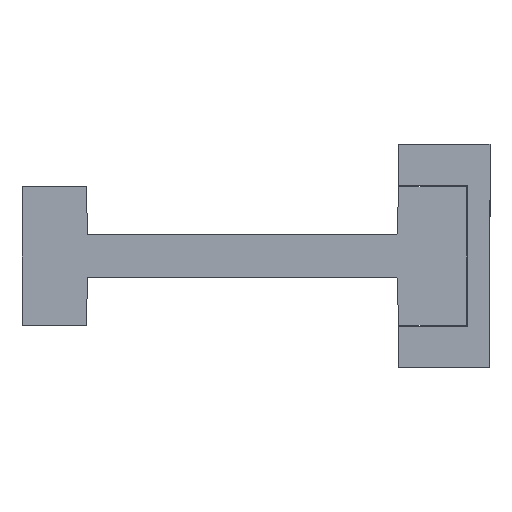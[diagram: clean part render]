
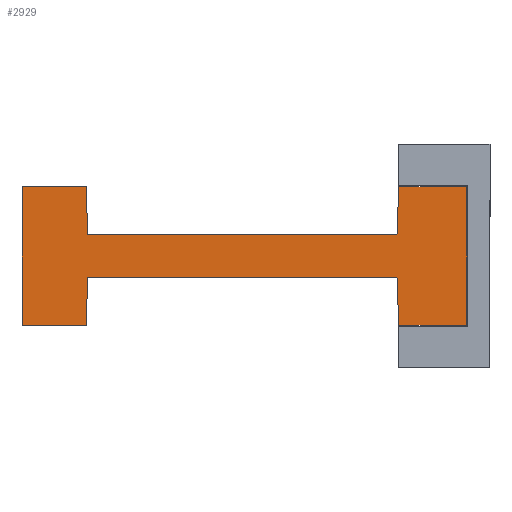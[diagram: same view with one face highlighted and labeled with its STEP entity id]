
A CAD part, left-side view. The second image highlights one B-rep face of the part: STEP entity #2929.
In plain terms, the highlighted planar face has unit normal (-1, 0, 0) as drawn and (0, 0, 1) by its records, which use the part's own axes.
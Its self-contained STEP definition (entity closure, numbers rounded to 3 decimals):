
#303 = EDGE_CURVE ( 'NONE', #3069, #3339, #3361, .T. ) ;
#332 = CARTESIAN_POINT ( 'NONE',  ( -11.85, 0., 0. ) ) ;
#364 = CARTESIAN_POINT ( 'NONE',  ( 11.85, -76., 0. ) ) ;
#415 = DIRECTION ( 'NONE',  ( 0., 1., 0. ) ) ;
#460 = VERTEX_POINT ( 'NONE', #860 ) ;
#468 = LINE ( 'NONE', #8560, #1671 ) ;
#572 = ORIENTED_EDGE ( 'NONE', *, *, #5993, .T. ) ;
#620 = VECTOR ( 'NONE', #5889, 1000. ) ;
#742 = ORIENTED_EDGE ( 'NONE', *, *, #7451, .T. ) ;
#860 = CARTESIAN_POINT ( 'NONE',  ( 3.6, -64.8, 0. ) ) ;
#875 = VECTOR ( 'NONE', #6374, 1000. ) ;
#905 = CARTESIAN_POINT ( 'NONE',  ( -11.85, 0., 0. ) ) ;
#1105 = ORIENTED_EDGE ( 'NONE', *, *, #303, .T. ) ;
#1299 = VECTOR ( 'NONE', #2694, 1000. ) ;
#1457 = CARTESIAN_POINT ( 'NONE',  ( -11.85, -11.6, 0. ) ) ;
#1490 = DIRECTION ( 'NONE',  ( -1., 0., 0. ) ) ;
#1617 = VERTEX_POINT ( 'NONE', #3717 ) ;
#1643 = EDGE_CURVE ( 'NONE', #2831, #1617, #5554, .T. ) ;
#1671 = VECTOR ( 'NONE', #5896, 1000. ) ;
#1796 = VECTOR ( 'NONE', #415, 1000. ) ;
#1833 = LINE ( 'NONE', #6557, #8056 ) ;
#1876 = DIRECTION ( 'NONE',  ( -1., 0.024, 0. ) ) ;
#1905 = CARTESIAN_POINT ( 'NONE',  ( -11.85, -65., 0. ) ) ;
#2144 = CARTESIAN_POINT ( 'NONE',  ( -11.85, -65., 0. ) ) ;
#2178 = EDGE_CURVE ( 'NONE', #3339, #2831, #5103, .T. ) ;
#2348 = DIRECTION ( 'NONE',  ( 0., 0., -1. ) ) ;
#2387 = EDGE_CURVE ( 'NONE', #4311, #3069, #4221, .T. ) ;
#2533 = VERTEX_POINT ( 'NONE', #7608 ) ;
#2694 = DIRECTION ( 'NONE',  ( 0., -1., 0. ) ) ;
#2727 = VERTEX_POINT ( 'NONE', #364 ) ;
#2831 = VERTEX_POINT ( 'NONE', #1905 ) ;
#2899 = DIRECTION ( 'NONE',  ( 1., 0., 0. ) ) ;
#2929 = ADVANCED_FACE ( 'Face1', ( #7818 ), #3585, .F. ) ;
#3019 = ORIENTED_EDGE ( 'NONE', *, *, #2387, .T. ) ;
#3069 = VERTEX_POINT ( 'NONE', #5081 ) ;
#3178 = DIRECTION ( 'NONE',  ( 0., 1., 0. ) ) ;
#3217 = CARTESIAN_POINT ( 'NONE',  ( 11.85, -65., 0. ) ) ;
#3339 = VERTEX_POINT ( 'NONE', #5133 ) ;
#3361 = LINE ( 'NONE', #4120, #1299 ) ;
#3384 = CARTESIAN_POINT ( 'NONE',  ( 11.85, -76., 0. ) ) ;
#3469 = VECTOR ( 'NONE', #7386, 1000. ) ;
#3585 = PLANE ( 'NONE',  #3765 ) ;
#3717 = CARTESIAN_POINT ( 'NONE',  ( -11.85, -76., 0. ) ) ;
#3765 = AXIS2_PLACEMENT_3D ( 'NONE', #5044, #2348, #1490 ) ;
#3896 = CARTESIAN_POINT ( 'NONE',  ( -3.6, -64.8, 0. ) ) ;
#4111 = ORIENTED_EDGE ( 'NONE', *, *, #1643, .T. ) ;
#4120 = CARTESIAN_POINT ( 'NONE',  ( -3.6, -11.9, 0. ) ) ;
#4126 = EDGE_CURVE ( 'Edge1', #2533, #4918, #468, .T. ) ;
#4221 = LINE ( 'NONE', #1457, #6430 ) ;
#4294 = LINE ( 'NONE', #3384, #7328 ) ;
#4311 = VERTEX_POINT ( 'NONE', #7424 ) ;
#4398 = ORIENTED_EDGE ( 'NONE', *, *, #5811, .T. ) ;
#4439 = ORIENTED_EDGE ( 'NONE', *, *, #8698, .T. ) ;
#4611 = EDGE_CURVE ( 'NONE', #6683, #4311, #6517, .T. ) ;
#4695 = LINE ( 'NONE', #7420, #1796 ) ;
#4918 = VERTEX_POINT ( 'NONE', #8647 ) ;
#4993 = DIRECTION ( 'NONE',  ( 0.999, -0.036, 0. ) ) ;
#5044 = CARTESIAN_POINT ( 'NONE',  ( 0., 0., 0. ) ) ;
#5081 = CARTESIAN_POINT ( 'NONE',  ( -3.6, -11.9, 0. ) ) ;
#5103 = LINE ( 'NONE', #3896, #620 ) ;
#5133 = CARTESIAN_POINT ( 'NONE',  ( -3.6, -64.8, 0. ) ) ;
#5359 = ORIENTED_EDGE ( 'NONE', *, *, #4126, .T. ) ;
#5369 = ORIENTED_EDGE ( 'NONE', *, *, #4611, .T. ) ;
#5554 = LINE ( 'NONE', #2144, #7390 ) ;
#5634 = ORIENTED_EDGE ( 'NONE', *, *, #6798, .T. ) ;
#5811 = EDGE_CURVE ( 'NONE', #1617, #2727, #4294, .T. ) ;
#5826 = DIRECTION ( 'NONE',  ( -1., 0., 0. ) ) ;
#5889 = DIRECTION ( 'NONE',  ( -1., -0.024, 0. ) ) ;
#5896 = DIRECTION ( 'NONE',  ( 0., 1., 0. ) ) ;
#5993 = EDGE_CURVE ( 'NONE', #8406, #2533, #6747, .T. ) ;
#6008 = ORIENTED_EDGE ( 'NONE', *, *, #2178, .T. ) ;
#6118 = CARTESIAN_POINT ( 'NONE',  ( 3.6, -64.8, 0. ) ) ;
#6238 = ORIENTED_EDGE ( 'NONE', *, *, #8436, .T. ) ;
#6242 = DIRECTION ( 'NONE',  ( 0., -1., 0. ) ) ;
#6374 = DIRECTION ( 'NONE',  ( 0., -1., 0. ) ) ;
#6423 = CARTESIAN_POINT ( 'NONE',  ( -11.85, 0., 0. ) ) ;
#6430 = VECTOR ( 'NONE', #4993, 1000. ) ;
#6517 = LINE ( 'NONE', #332, #875 ) ;
#6557 = CARTESIAN_POINT ( 'NONE',  ( 3.6, -11.9, 0. ) ) ;
#6623 = VECTOR ( 'NONE', #5826, 1000. ) ;
#6683 = VERTEX_POINT ( 'NONE', #905 ) ;
#6747 = LINE ( 'NONE', #8828, #3469 ) ;
#6798 = EDGE_CURVE ( 'NONE', #2727, #6850, #4695, .T. ) ;
#6831 = EDGE_LOOP ( 'NONE', ( #5359, #6238, #5369, #3019, #1105, #6008, #4111, #4398, #5634, #742, #4439, #572 ) ) ;
#6850 = VERTEX_POINT ( 'NONE', #3217 ) ;
#6924 = VECTOR ( 'NONE', #1876, 1000. ) ;
#7158 = CARTESIAN_POINT ( 'NONE',  ( 3.6, -11.9, 0. ) ) ;
#7328 = VECTOR ( 'NONE', #2899, 1000. ) ;
#7386 = DIRECTION ( 'NONE',  ( 0.999, 0.036, 0. ) ) ;
#7390 = VECTOR ( 'NONE', #6242, 1000. ) ;
#7420 = CARTESIAN_POINT ( 'NONE',  ( 11.85, -65., 0. ) ) ;
#7424 = CARTESIAN_POINT ( 'NONE',  ( -11.85, -11.6, 0. ) ) ;
#7451 = EDGE_CURVE ( 'NONE', #6850, #460, #7524, .T. ) ;
#7524 = LINE ( 'NONE', #6118, #6924 ) ;
#7608 = CARTESIAN_POINT ( 'NONE',  ( 11.85, -11.6, 0. ) ) ;
#7818 = FACE_OUTER_BOUND ( 'NONE', #6831, .T. ) ;
#8056 = VECTOR ( 'NONE', #3178, 1000. ) ;
#8406 = VERTEX_POINT ( 'NONE', #7158 ) ;
#8434 = LINE ( 'NONE', #6423, #6623 ) ;
#8436 = EDGE_CURVE ( 'NONE', #4918, #6683, #8434, .T. ) ;
#8560 = CARTESIAN_POINT ( 'NONE',  ( 11.85, 0., 0. ) ) ;
#8647 = CARTESIAN_POINT ( 'NONE',  ( 11.85, 0., 0. ) ) ;
#8698 = EDGE_CURVE ( 'NONE', #460, #8406, #1833, .T. ) ;
#8828 = CARTESIAN_POINT ( 'NONE',  ( 11.85, -11.6, 0. ) ) ;
